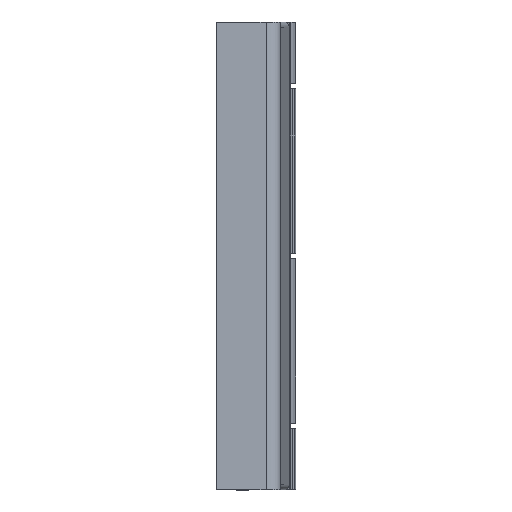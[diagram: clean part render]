
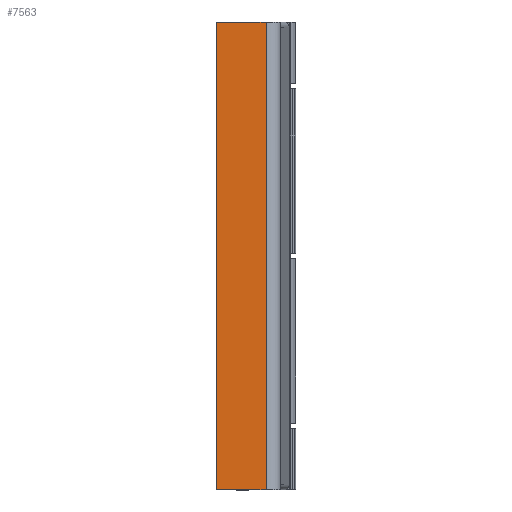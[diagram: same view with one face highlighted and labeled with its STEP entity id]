
A CAD part, front view. The second image highlights one B-rep face of the part: STEP entity #7563.
In plain terms, the highlighted planar face has unit normal (0, -1, 0).
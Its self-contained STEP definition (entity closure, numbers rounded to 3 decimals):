
#142 = LINE ( 'NONE', #6607, #3367 ) ;
#595 = VECTOR ( 'NONE', #5081, 1000. ) ;
#747 = VERTEX_POINT ( 'NONE', #2181 ) ;
#858 = EDGE_CURVE ( 'NONE', #6304, #1105, #2350, .T. ) ;
#980 = ORIENTED_EDGE ( 'NONE', *, *, #7122, .T. ) ;
#1105 = VERTEX_POINT ( 'NONE', #7106 ) ;
#1164 = CARTESIAN_POINT ( 'NONE',  ( -8.5, -52., 50. ) ) ;
#1171 = LINE ( 'NONE', #6035, #4460 ) ;
#1588 = CARTESIAN_POINT ( 'NONE',  ( 2.158, -52., 50. ) ) ;
#1729 = CARTESIAN_POINT ( 'NONE',  ( -8.5, -52., 50. ) ) ;
#1904 = DIRECTION ( 'NONE',  ( 0., 0., 1. ) ) ;
#2129 = ORIENTED_EDGE ( 'NONE', *, *, #858, .T. ) ;
#2181 = CARTESIAN_POINT ( 'NONE',  ( 2.158, -52., -50. ) ) ;
#2194 = VECTOR ( 'NONE', #1904, 1000. ) ;
#2350 = LINE ( 'NONE', #1164, #595 ) ;
#2619 = ORIENTED_EDGE ( 'NONE', *, *, #4117, .F. ) ;
#2771 = DIRECTION ( 'NONE',  ( 1., 0., 0. ) ) ;
#3268 = DIRECTION ( 'NONE',  ( 0., 1., 0. ) ) ;
#3367 = VECTOR ( 'NONE', #7903, 1000. ) ;
#3421 = EDGE_LOOP ( 'NONE', ( #4952, #980, #2619, #2129 ) ) ;
#3870 = CARTESIAN_POINT ( 'NONE',  ( 2.158, -52., 50. ) ) ;
#3899 = EDGE_CURVE ( 'NONE', #1105, #747, #1171, .T. ) ;
#3948 = LINE ( 'NONE', #3870, #2194 ) ;
#4081 = VERTEX_POINT ( 'NONE', #1588 ) ;
#4117 = EDGE_CURVE ( 'NONE', #6304, #4081, #142, .T. ) ;
#4460 = VECTOR ( 'NONE', #2771, 1000. ) ;
#4952 = ORIENTED_EDGE ( 'NONE', *, *, #3899, .T. ) ;
#5081 = DIRECTION ( 'NONE',  ( 0., 0., -1. ) ) ;
#6035 = CARTESIAN_POINT ( 'NONE',  ( -8.5, -52., -50. ) ) ;
#6304 = VERTEX_POINT ( 'NONE', #1729 ) ;
#6459 = PLANE ( 'NONE',  #7454 ) ;
#6607 = CARTESIAN_POINT ( 'NONE',  ( -8.5, -52., 50. ) ) ;
#7106 = CARTESIAN_POINT ( 'NONE',  ( -8.5, -52., -50. ) ) ;
#7116 = CARTESIAN_POINT ( 'NONE',  ( -8.5, -52., 50. ) ) ;
#7122 = EDGE_CURVE ( 'NONE', #747, #4081, #3948, .T. ) ;
#7361 = FACE_OUTER_BOUND ( 'NONE', #3421, .T. ) ;
#7454 = AXIS2_PLACEMENT_3D ( 'NONE', #7116, #3268, #7763 ) ;
#7563 = ADVANCED_FACE ( 'NONE', ( #7361 ), #6459, .F. ) ;
#7763 = DIRECTION ( 'NONE',  ( 0., 0., 1. ) ) ;
#7903 = DIRECTION ( 'NONE',  ( 1., 0., 0. ) ) ;
